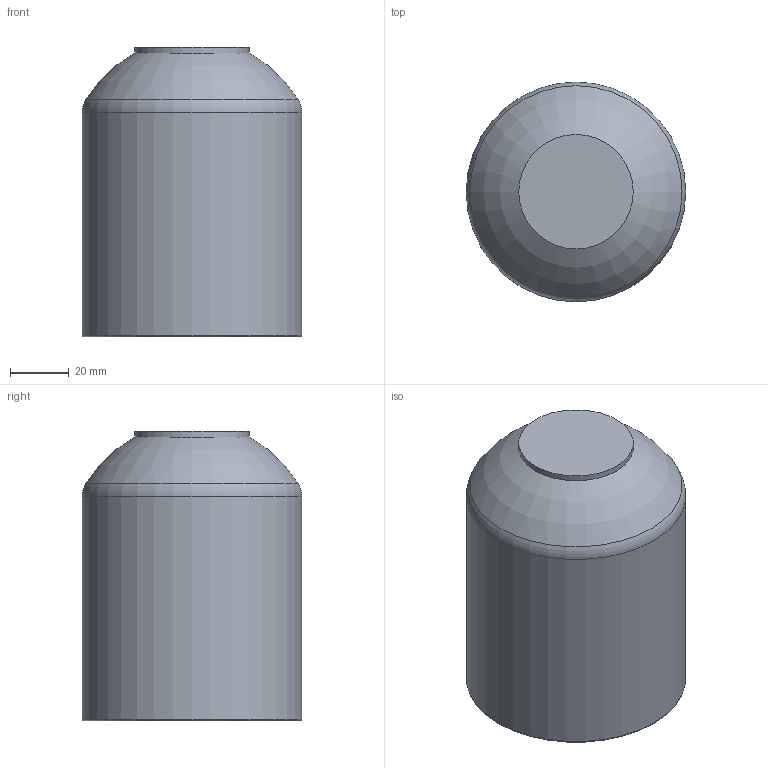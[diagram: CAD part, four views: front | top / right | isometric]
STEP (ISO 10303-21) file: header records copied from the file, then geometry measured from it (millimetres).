
FILE_DESCRIPTION(/* description */ ('Unknown'),/* implementation_level */ '2;1');
FILE_NAME(/* name */ 'CAP075H',/* time_stamp */ '2022-04-01T11:52:29+02:00',/* author */ ('Unknown'),/* organization */ ('Unknown'),/* preprocessor_version */ 'ST-DEVELOPER v18.1',/* originating_system */ 'Solid Edge',/* authorisation */ 'Unknown');
FILE_SCHEMA (('AUTOMOTIVE_DESIGN {1 0 10303 214 3 1 1}'));
Length unit declared in the file: millimetre
Products named in the file (1): CAP075H
Bounding box: 75 x 75 x 99 mm (x, y, z)
Volume: 218395.7 mm3; surface area: 42494.8 mm2
Topology: 1 solids, 1 shells, 124 faces, 304 edges, 172 vertices
Faces by surface type: bspline 90, torus 24, cone 5, cylinder 3, plane 2
Full cylindrical faces by diameter (mm): 39.119 x1, 54.4 x1, 75 x1
Entity records: 5138 total; most frequent: CARTESIAN_POINT 2975, ORIENTED_EDGE 564, EDGE_CURVE 282, DIRECTION 274, B_SPLINE_CURVE_WITH_KNOTS 180, VERTEX_POINT 168, AXIS2_PLACEMENT_3D 137, FACE_BOUND 132
